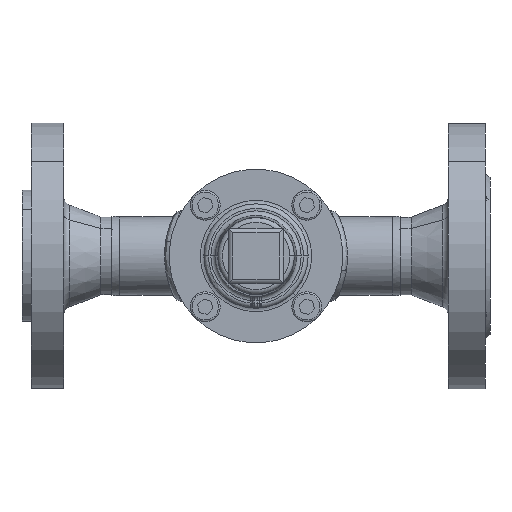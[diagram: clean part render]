
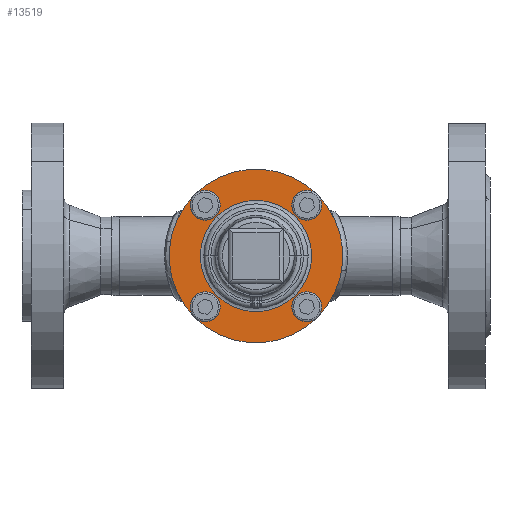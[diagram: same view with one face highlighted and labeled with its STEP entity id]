
A CAD part, front view. The second image highlights one B-rep face of the part: STEP entity #13519.
In plain terms, the highlighted planar face has unit normal (0, -1, 0) as drawn and (0, 0, -1) by its records, which use the part's own axes.
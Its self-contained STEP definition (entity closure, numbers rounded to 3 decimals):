
#16566 = ORIENTED_EDGE ( 'NONE', *, *, #20614, .F. ) ;
#484 = CIRCLE ( 'NONE', #485, 4.5 ) ;
#485 = AXIS2_PLACEMENT_3D ( 'NONE', #486, #487, #488 ) ;
#486 = CARTESIAN_POINT ( 'NONE',  ( 0., -31., -14. ) ) ;
#487 = DIRECTION ( 'NONE',  ( 0., 0., -1. ) ) ;
#488 = DIRECTION ( 'NONE',  ( 1., 0., 0. ) ) ;
#664 = EDGE_LOOP ( 'NONE', ( #27002, #25311 ) ) ;
#700 = VERTEX_POINT ( 'NONE', #21750 ) ;
#17109 = EDGE_CURVE ( 'NONE', #20379, #700, #7367, .T. ) ;
#17497 = ORIENTED_EDGE ( 'NONE', *, *, #17109, .F. ) ;
#1129 = ORIENTED_EDGE ( 'NONE', *, *, #14711, .F. ) ;
#17785 = VERTEX_POINT ( 'NONE', #9044 ) ;
#17973 = VERTEX_POINT ( 'NONE', #7874 ) ;
#2121 = EDGE_CURVE ( 'NONE', #3950, #2942, #3688, .T. ) ;
#18796 = CIRCLE ( 'NONE', #18798, 24. ) ;
#18798 = AXIS2_PLACEMENT_3D ( 'NONE', #18799, #18800, #18801 ) ;
#18799 = CARTESIAN_POINT ( 'NONE',  ( 0., 0., -14. ) ) ;
#18800 = DIRECTION ( 'NONE',  ( 0., 0., 1. ) ) ;
#18801 = DIRECTION ( 'NONE',  ( 1., 0., 0. ) ) ;
#2831 = ORIENTED_EDGE ( 'NONE', *, *, #2121, .F. ) ;
#2942 = VERTEX_POINT ( 'NONE', #4315 ) ;
#19789 = EDGE_CURVE ( 'NONE', #17785, #17973, #11403, .T. ) ;
#19931 = CIRCLE ( 'NONE', #19932, 24. ) ;
#19932 = AXIS2_PLACEMENT_3D ( 'NONE', #19933, #19934, #19935 ) ;
#19933 = CARTESIAN_POINT ( 'NONE',  ( 0., 0., -14. ) ) ;
#19934 = DIRECTION ( 'NONE',  ( 0., 0., 1. ) ) ;
#19935 = DIRECTION ( 'NONE',  ( 1., 0., 0. ) ) ;
#3688 = CIRCLE ( 'NONE', #3689, 4.5 ) ;
#3689 = AXIS2_PLACEMENT_3D ( 'NONE', #3690, #3691, #3692 ) ;
#3690 = CARTESIAN_POINT ( 'NONE',  ( 0., -31., -14. ) ) ;
#3691 = DIRECTION ( 'NONE',  ( 0., 0., -1. ) ) ;
#3692 = DIRECTION ( 'NONE',  ( 1., 0., 0. ) ) ;
#20142 = CARTESIAN_POINT ( 'NONE',  ( 35.5, 0., -14. ) ) ;
#20184 = ORIENTED_EDGE ( 'NONE', *, *, #19789, .F. ) ;
#3815 = EDGE_LOOP ( 'NONE', ( #2831, #1129 ) ) ;
#3950 = VERTEX_POINT ( 'NONE', #5048 ) ;
#20379 = VERTEX_POINT ( 'NONE', #12869 ) ;
#20614 = EDGE_CURVE ( 'NONE', #700, #20379, #13502, .T. ) ;
#4315 = CARTESIAN_POINT ( 'NONE',  ( 4.5, -31., -14. ) ) ;
#20735 = ORIENTED_EDGE ( 'NONE', *, *, #7369, .F. ) ;
#21281 = EDGE_LOOP ( 'NONE', ( #20735, #20184 ) ) ;
#21387 = EDGE_CURVE ( 'NONE', #5645, #5289, #19931, .T. ) ;
#5048 = CARTESIAN_POINT ( 'NONE',  ( -4.5, -31., -14. ) ) ;
#5289 = VERTEX_POINT ( 'NONE', #5836 ) ;
#21743 = ORIENTED_EDGE ( 'NONE', *, *, #21387, .T. ) ;
#21750 = CARTESIAN_POINT ( 'NONE',  ( 4.5, 31., -14. ) ) ;
#5645 = VERTEX_POINT ( 'NONE', #5939 ) ;
#5836 = CARTESIAN_POINT ( 'NONE',  ( 24., 0., -14. ) ) ;
#5939 = CARTESIAN_POINT ( 'NONE',  ( -24., 0., -14. ) ) ;
#6034 = VERTEX_POINT ( 'NONE', #7873 ) ;
#7367 = CIRCLE ( 'NONE', #7368, 4.5 ) ;
#7368 = AXIS2_PLACEMENT_3D ( 'NONE', #7389, #7390, #7391 ) ;
#7369 = EDGE_CURVE ( 'NONE', #17973, #17785, #9202, .T. ) ;
#7389 = CARTESIAN_POINT ( 'NONE',  ( 0., 31., -14. ) ) ;
#7390 = DIRECTION ( 'NONE',  ( 0., 0., -1. ) ) ;
#7391 = DIRECTION ( 'NONE',  ( -1., 0., 0. ) ) ;
#7873 = CARTESIAN_POINT ( 'NONE',  ( -35.5, 0., -14. ) ) ;
#7874 = CARTESIAN_POINT ( 'NONE',  ( 37.5, 0., -14. ) ) ;
#24798 = FACE_BOUND ( 'NONE', #13280, .T. ) ;
#24799 = FACE_BOUND ( 'NONE', #3815, .T. ) ;
#24800 = FACE_BOUND ( 'NONE', #664, .T. ) ;
#24801 = FACE_BOUND ( 'NONE', #24844, .T. ) ;
#24802 = FACE_BOUND ( 'NONE', #11969, .T. ) ;
#24803 = FACE_OUTER_BOUND ( 'NONE', #21281, .T. ) ;
#24840 = PLANE ( 'NONE',  #24841 ) ;
#24841 = AXIS2_PLACEMENT_3D ( 'NONE', #24842, #24843, #24864 ) ;
#24842 = CARTESIAN_POINT ( 'NONE',  ( 0., 0., -14. ) ) ;
#24843 = DIRECTION ( 'NONE',  ( 0., 0., 1. ) ) ;
#24844 = EDGE_LOOP ( 'NONE', ( #17497, #16566 ) ) ;
#24864 = DIRECTION ( 'NONE',  ( 1., 0., 0. ) ) ;
#8530 = VERTEX_POINT ( 'NONE', #10673 ) ;
#25311 = ORIENTED_EDGE ( 'NONE', *, *, #26930, .F. ) ;
#25410 = CIRCLE ( 'NONE', #25411, 4.5 ) ;
#25411 = AXIS2_PLACEMENT_3D ( 'NONE', #25412, #25413, #25414 ) ;
#25412 = CARTESIAN_POINT ( 'NONE',  ( 31., 0., -14. ) ) ;
#25413 = DIRECTION ( 'NONE',  ( 0., 0., -1. ) ) ;
#25414 = DIRECTION ( 'NONE',  ( 0., 1., 0. ) ) ;
#9044 = CARTESIAN_POINT ( 'NONE',  ( -37.5, 0., -14. ) ) ;
#9202 = CIRCLE ( 'NONE', #9203, 37.5 ) ;
#9203 = AXIS2_PLACEMENT_3D ( 'NONE', #9204, #9205, #9206 ) ;
#9204 = CARTESIAN_POINT ( 'NONE',  ( 0., 0., -14. ) ) ;
#9205 = DIRECTION ( 'NONE',  ( 0., 0., 1. ) ) ;
#9206 = DIRECTION ( 'NONE',  ( 1., 0., 0. ) ) ;
#26293 = EDGE_CURVE ( 'NONE', #6034, #8530, #26355, .T. ) ;
#26355 = CIRCLE ( 'NONE', #26356, 4.5 ) ;
#26356 = AXIS2_PLACEMENT_3D ( 'NONE', #26357, #26358, #26359 ) ;
#26357 = CARTESIAN_POINT ( 'NONE',  ( -31., 0., -14. ) ) ;
#26358 = DIRECTION ( 'NONE',  ( 0., 0., -1. ) ) ;
#26359 = DIRECTION ( 'NONE',  ( 0., -1., 0. ) ) ;
#10492 = VERTEX_POINT ( 'NONE', #13075 ) ;
#26930 = EDGE_CURVE ( 'NONE', #8530, #6034, #27094, .T. ) ;
#27002 = ORIENTED_EDGE ( 'NONE', *, *, #26293, .F. ) ;
#10673 = CARTESIAN_POINT ( 'NONE',  ( -26.5, 0., -14. ) ) ;
#27094 = CIRCLE ( 'NONE', #27095, 4.5 ) ;
#27095 = AXIS2_PLACEMENT_3D ( 'NONE', #27096, #27097, #27098 ) ;
#27096 = CARTESIAN_POINT ( 'NONE',  ( -31., 0., -14. ) ) ;
#27097 = DIRECTION ( 'NONE',  ( 0., 0., -1. ) ) ;
#27098 = DIRECTION ( 'NONE',  ( 0., -1., 0. ) ) ;
#10757 = EDGE_CURVE ( 'NONE', #11710, #10492, #13542, .T. ) ;
#11050 = EDGE_CURVE ( 'NONE', #5289, #5645, #18796, .T. ) ;
#11403 = CIRCLE ( 'NONE', #11404, 37.5 ) ;
#11404 = AXIS2_PLACEMENT_3D ( 'NONE', #11405, #11406, #11407 ) ;
#11405 = CARTESIAN_POINT ( 'NONE',  ( 0., 0., -14. ) ) ;
#11406 = DIRECTION ( 'NONE',  ( 0., 0., 1. ) ) ;
#11407 = DIRECTION ( 'NONE',  ( 1., 0., 0. ) ) ;
#11454 = ORIENTED_EDGE ( 'NONE', *, *, #11050, .T. ) ;
#11710 = VERTEX_POINT ( 'NONE', #20142 ) ;
#11969 = EDGE_LOOP ( 'NONE', ( #11454, #21743 ) ) ;
#12869 = CARTESIAN_POINT ( 'NONE',  ( -4.5, 31., -14. ) ) ;
#13075 = CARTESIAN_POINT ( 'NONE',  ( 26.5, 0., -14. ) ) ;
#13280 = EDGE_LOOP ( 'NONE', ( #14198, #13444 ) ) ;
#13444 = ORIENTED_EDGE ( 'NONE', *, *, #10757, .F. ) ;
#13502 = CIRCLE ( 'NONE', #13503, 4.5 ) ;
#13503 = AXIS2_PLACEMENT_3D ( 'NONE', #13504, #13505, #13506 ) ;
#13504 = CARTESIAN_POINT ( 'NONE',  ( 0., 31., -14. ) ) ;
#13505 = DIRECTION ( 'NONE',  ( 0., 0., -1. ) ) ;
#13506 = DIRECTION ( 'NONE',  ( -1., 0., 0. ) ) ;
#13519 = ADVANCED_FACE ( 'NONE', ( #24798, #24799, #24800, #24801, #24802, #24803 ), #24840, .F. ) ;
#13542 = CIRCLE ( 'NONE', #13543, 4.5 ) ;
#13543 = AXIS2_PLACEMENT_3D ( 'NONE', #13544, #13545, #13546 ) ;
#13544 = CARTESIAN_POINT ( 'NONE',  ( 31., 0., -14. ) ) ;
#13545 = DIRECTION ( 'NONE',  ( 0., 0., -1. ) ) ;
#13546 = DIRECTION ( 'NONE',  ( 0., 1., 0. ) ) ;
#13809 = EDGE_CURVE ( 'NONE', #10492, #11710, #25410, .T. ) ;
#14198 = ORIENTED_EDGE ( 'NONE', *, *, #13809, .F. ) ;
#14711 = EDGE_CURVE ( 'NONE', #2942, #3950, #484, .T. ) ;
